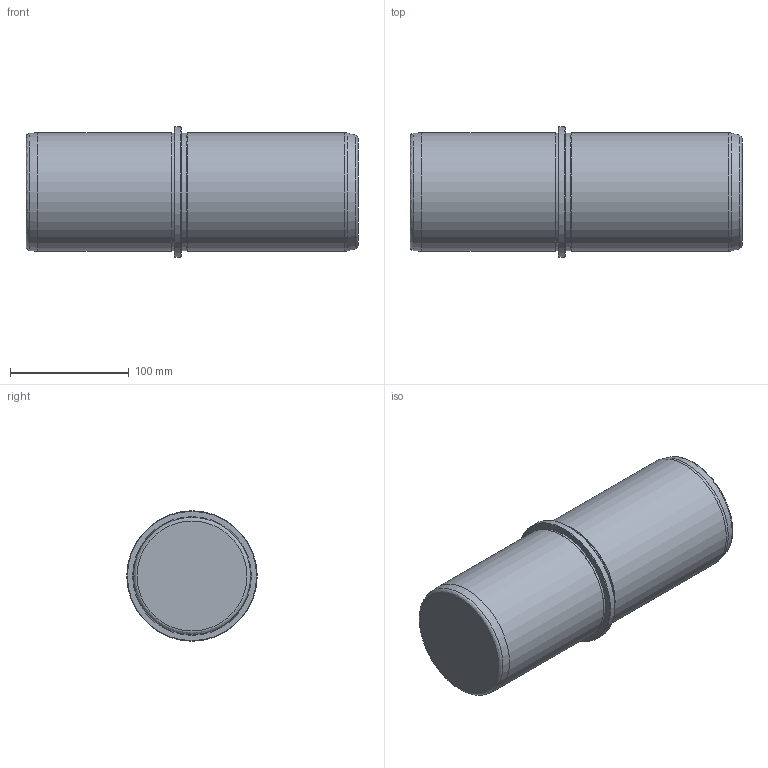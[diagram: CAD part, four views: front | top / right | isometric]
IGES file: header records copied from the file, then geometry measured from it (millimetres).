
Global section: file name: WDX100280.ipt; native system: Autodesk Inventor 2021; preprocessor: unknown; author: SM; date: 20220118.141353; units: millimetre
Bounding box: 280 x 110 x 110 mm (x, y, z)
Volume: 2198220.4 mm3; surface area: 106820.9 mm2
Topology: 1 solids, 1 shells, 21 faces, 47 edges, 30 vertices
Faces by surface type: cone 6, revolution 5, cylinder 5, plane 4, bspline 1
Full cylindrical faces by diameter (mm): 99 x2, 100 x2, 110 x1
